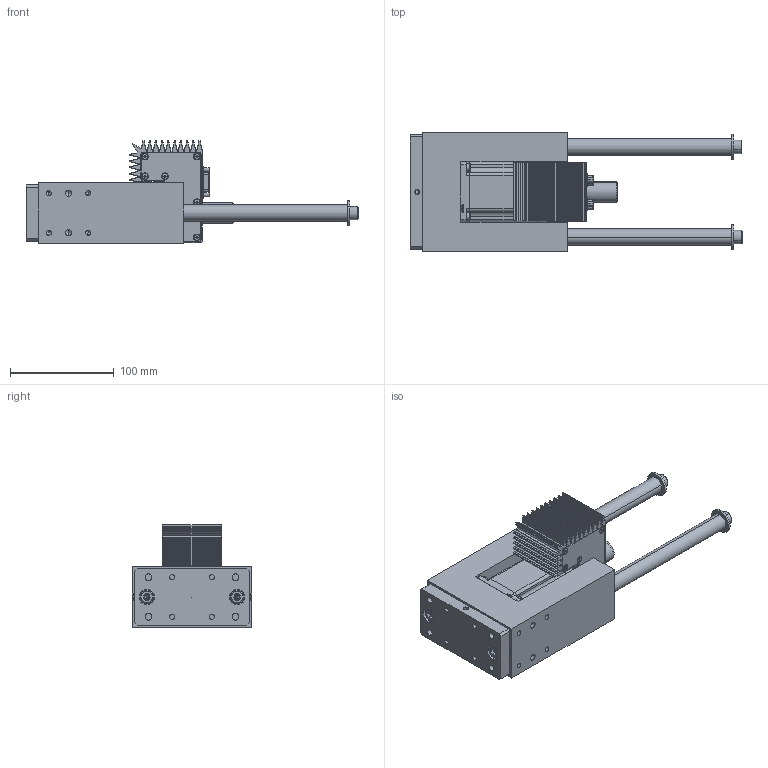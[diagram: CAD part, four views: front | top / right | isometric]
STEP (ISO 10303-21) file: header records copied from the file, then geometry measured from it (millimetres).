
FILE_DESCRIPTION (( 'STEP AP214' ), '1' );
FILE_NAME ('FE23_0004_V00_HUB-150.stp', '2022-03-11T10:46:36', ( '' ), ( '' ), 'SwSTEP 2.0', 'SolidWorks 2020', '' );
FILE_SCHEMA (( 'AUTOMOTIVE_DESIGN' ));
Length unit declared in the file: millimetre
Products named in the file (22): Kollmorgen_NEMA23_CTP22NSF3INSS02_mit Gewinde; FE00_0005_V00; socket thin pilot cap screw_din_DIN 6912 - M8 x 20 --- 13N; INA_Axial-Rillenkugellager-51104_31_104; FE23_0001_V00_HUB-150; C300_axial_SubD_Ohne Verschlusskappe; socket set screw cone point_din_DIN 914 - M4 x 5-N; FE00_0008_V00_L-030; FE00_0003_V00_HUB-150; socket head cap screw_din_DIN 912 M8 x 16 --- 16N; plain washer large_din_Washer DIN 9021 - 8.4; FE00_0002_V00_HUB-150; parallel pin hardened_din_DIN EN 28734 - 3 x 12 - A - St; WISKA_EVSG_12_7035_10060624; spring pin slotted_hd_din_DIN EN 28752 - 2.5 x 16 - St; FE00_0004_V00; FE00_0006_V00; FE23_0004_V00_HUB-150; INA-FAG_KH16-PP; socket head cap screw_din_DIN 912 M4 x 16 --- 16N; socket set screw cone point_din_DIN 914 - M6 x 12-N; FE00_0001_V00
Assembly tree (35 placements, depth 3):
  FE23_0004_V00_HUB-150
    FE23_0001_V00_HUB-150
      FE00_0002_V00_HUB-150
      FE00_0003_V00_HUB-150  x2
      FE00_0001_V00
      FE00_0004_V00
      FE00_0005_V00
      FE00_0006_V00
      INA-FAG_KH16-PP  x4
      socket thin pilot cap screw_din_DIN 6912 - M8 x 20 --- 13N  x2
      INA_Axial-Rillenkugellager-51104_31_104  x2
      parallel pin hardened_din_DIN EN 28734 - 3 x 12 - A - St  x3
      socket set screw cone point_din_DIN 914 - M4 x 5-N
      spring pin slotted_hd_din_DIN EN 28752 - 2.5 x 16 - St
      socket set screw cone point_din_DIN 914 - M6 x 12-N  x2
      plain washer large_din_Washer DIN 9021 - 8.4  x2
      socket head cap screw_din_DIN 912 M8 x 16 --- 16N  x2
    Kollmorgen_NEMA23_CTP22NSF3INSS02_mit Gewinde
    C300_axial_SubD_Ohne Verschlusskappe
    FE00_0008_V00_L-030
    WISKA_EVSG_12_7035_10060624
    socket head cap screw_din_DIN 912 M4 x 16 --- 16N  x4
Bounding box: 320 x 115 x 98.5 mm (x, y, z)
Volume: 1185417.7 mm3; surface area: 310772.3 mm2
Topology: 65 solids, 66 shells, 2509 faces, 6159 edges, 3721 vertices
Faces by surface type: plane 1072, cylinder 742, cone 363, bspline 188, torus 144
Entity records: 81213 total; most frequent: CARTESIAN_POINT 17632, DIRECTION 10271, ORIENTED_EDGE 9740, EDGE_CURVE 4870, AXIS2_PLACEMENT_3D 3769, VERTEX_POINT 3078, LINE 2733, VECTOR 2733
